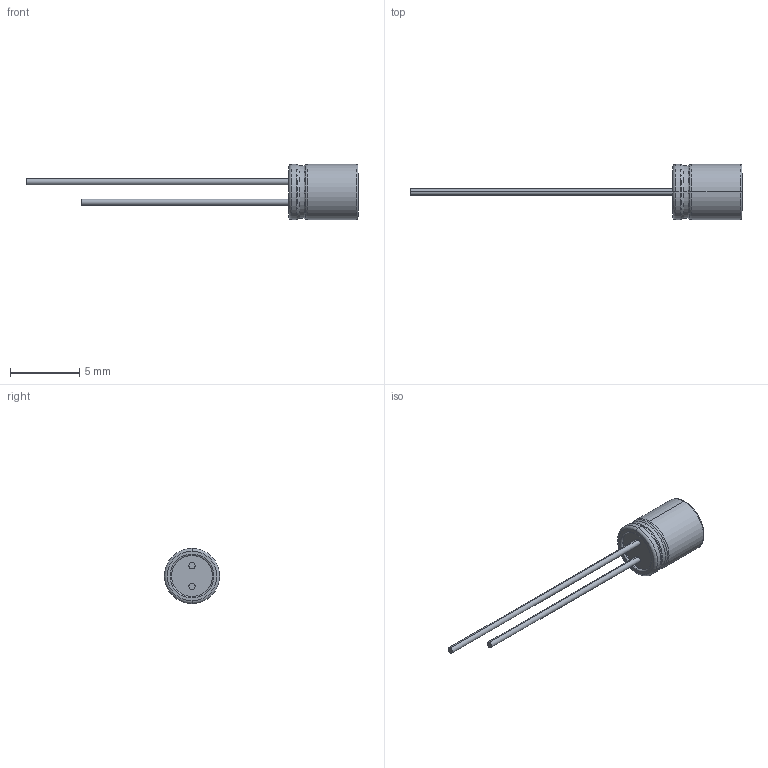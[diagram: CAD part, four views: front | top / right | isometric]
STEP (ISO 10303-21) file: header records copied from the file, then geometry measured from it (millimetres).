
FILE_DESCRIPTION((''),'2;1');
FILE_NAME('POLYMER-RADIAL4X5','2020-06-03T',('xy'),(''),'PRO/ENGINEER BY PARAMETRIC TECHNOLOGY CORPORATION, 2009380','PRO/ENGINEER BY PARAMETRIC TECHNOLOGY CORPORATION, 2009380','');
FILE_SCHEMA(('CONFIG_CONTROL_DESIGN'));
Length unit declared in the file: millimetre
Products named in the file (1): POLYMER-RADIAL4X5
Bounding box: 24 x 4 x 4 mm (x, y, z)
Volume: 66.1 mm3; surface area: 137 mm2
Topology: 1 solids, 1 shells, 415 faces, 1146 edges, 758 vertices
Faces by surface type: plane 387, cylinder 13, torus 11, cone 4
Entity records: 13006 total; most frequent: CARTESIAN_POINT 2329, ORIENTED_EDGE 2292, DIRECTION 2020, EDGE_CURVE 1146, VECTOR 1098, LINE 1098, VERTEX_POINT 758, AXIS2_PLACEMENT_3D 461
